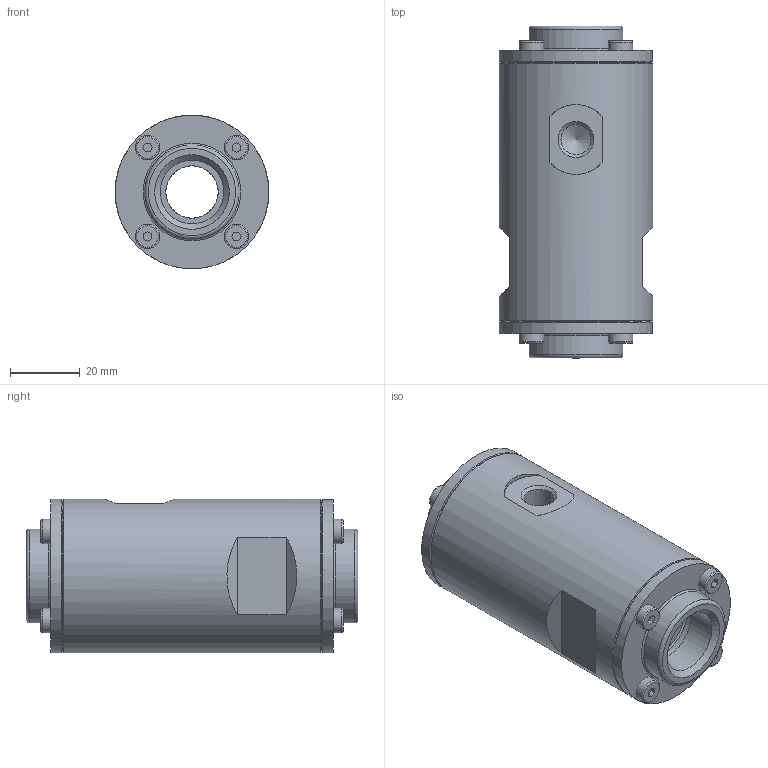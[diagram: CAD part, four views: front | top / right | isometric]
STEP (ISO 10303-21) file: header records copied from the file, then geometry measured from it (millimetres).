
FILE_DESCRIPTION(/* description */ (''),/* implementation_level */ '2;1');
FILE_NAME(/* name */ 'Serie70_QV15_assembly_VEREINFACHT.stp',/* time_stamp */ '2013-10-05T08:00:13+02:00',/* author */ (''),/* organization */ (''),/* preprocessor_version */ 'ST-DEVELOPER v11',/* originating_system */ 'SIEMENS PLM Software NX 7.5',/* authorisation */ '');
FILE_SCHEMA (('AUTOMOTIVE_DESIGN { 1 0 10303 214 1 1 1 1 }'));
Length unit declared in the file: millimetre
Products named in the file (1): memd369C6jkw
Bounding box: 44 x 95 x 44 mm (x, y, z)
Volume: 108504.6 mm3; surface area: 35661.4 mm2
Topology: 27 solids, 27 shells, 292 faces, 592 edges, 386 vertices
Faces by surface type: plane 139, cylinder 91, torus 34, cone 28
Full cylindrical faces by diameter (mm): 3.24 x16, 3.3 x8, 4 x24, 4.2 x8, 4.4 x8, 7 x8, 8.611 x1, 15 x3, 18.258 x2, 22.9 x2, 27 x2, 41 x2, 41.2 x2, 44 x3
Entity records: 6697 total; most frequent: DIRECTION 1202, CARTESIAN_POINT 1034, ORIENTED_EDGE 762, AXIS2_PLACEMENT_3D 524, EDGE_LOOP 514, FACE_BOUND 435, EDGE_CURVE 381, VERTEX_POINT 336
